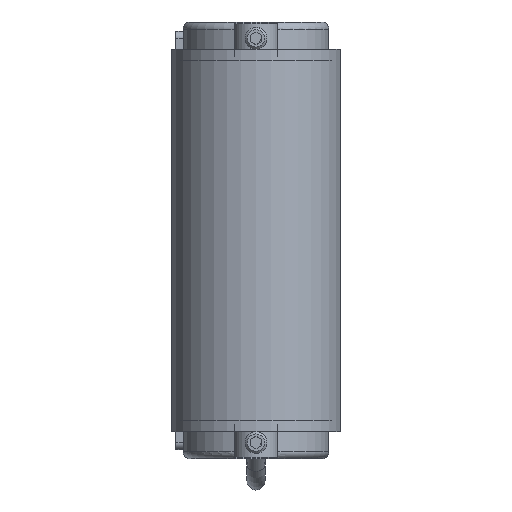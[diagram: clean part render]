
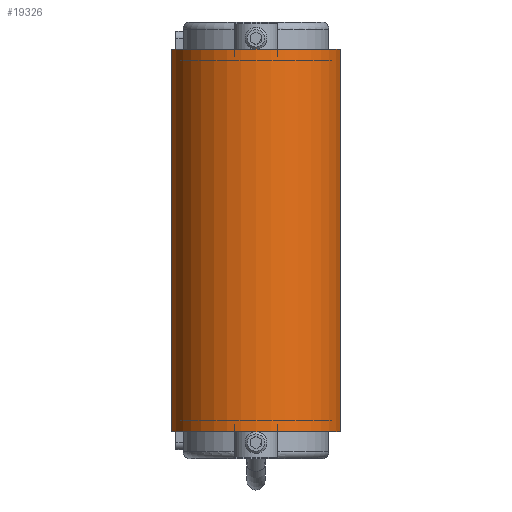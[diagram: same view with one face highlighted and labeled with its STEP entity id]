
A CAD part, front view. The second image highlights one B-rep face of the part: STEP entity #19326.
In plain terms, the highlighted cylindrical face has radius 23.3 mm (diameter 46.6 mm), a partial arc.
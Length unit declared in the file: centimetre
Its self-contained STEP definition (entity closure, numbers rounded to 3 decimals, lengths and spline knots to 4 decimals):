
#555=CYLINDRICAL_SURFACE('',#20656,2.33);
#1179=CIRCLE('',#20651,2.33);
#1182=CIRCLE('',#20657,2.33);
#2000=FACE_OUTER_BOUND('',#3051,.T.);
#3051=EDGE_LOOP('',(#13096,#13097,#13098,#13099));
#4383=LINE('',#28483,#5948);
#4384=LINE('',#28487,#5949);
#5948=VECTOR('',#23300,1.);
#5949=VECTOR('',#23305,1.);
#7679=VERTEX_POINT('',#28466);
#7680=VERTEX_POINT('',#28467);
#7685=VERTEX_POINT('',#28481);
#7686=VERTEX_POINT('',#28485);
#9783=EDGE_CURVE('',#7679,#7680,#1179,.T.);
#9791=EDGE_CURVE('',#7685,#7680,#4383,.T.);
#9792=EDGE_CURVE('',#7685,#7686,#1182,.T.);
#9793=EDGE_CURVE('',#7679,#7686,#4384,.T.);
#13096=ORIENTED_EDGE('',*,*,#9792,.T.);
#13097=ORIENTED_EDGE('',*,*,#9793,.F.);
#13098=ORIENTED_EDGE('',*,*,#9783,.T.);
#13099=ORIENTED_EDGE('',*,*,#9791,.F.);
#19326=ADVANCED_FACE('',(#2000),#555,.T.);
#20651=AXIS2_PLACEMENT_3D('',#28468,#23285,#23286);
#20656=AXIS2_PLACEMENT_3D('',#28484,#23301,#23302);
#20657=AXIS2_PLACEMENT_3D('',#28486,#23303,#23304);
#23285=DIRECTION('center_axis',(0.,0.,
-1.));
#23286=DIRECTION('ref_axis',(-1.,0.,0.));
#23300=DIRECTION('',(0.,0.,1.));
#23301=DIRECTION('center_axis',(0.,0.,
-1.));
#23302=DIRECTION('ref_axis',(-1.,0.,0.));
#23303=DIRECTION('center_axis',(0.,0.,
1.));
#23304=DIRECTION('ref_axis',(-1.,0.,0.));
#23305=DIRECTION('',(0.,0.,-1.));
#28466=CARTESIAN_POINT('',(2.33,-67.,5.25));
#28467=CARTESIAN_POINT('',(-2.33,-67.,5.25));
#28468=CARTESIAN_POINT('Origin',(0.,-67.,5.25));
#28481=CARTESIAN_POINT('',(-2.33,-67.,-5.25));
#28483=CARTESIAN_POINT('',(-2.33,-67.,0.));
#28484=CARTESIAN_POINT('Origin',(0.,-67.,0.));
#28485=CARTESIAN_POINT('',(2.33,-67.,-5.25));
#28486=CARTESIAN_POINT('Origin',(0.,-67.,-5.25));
#28487=CARTESIAN_POINT('',(2.33,-67.,0.));
